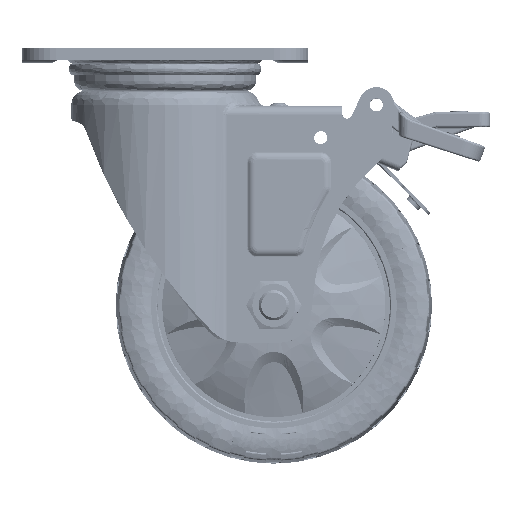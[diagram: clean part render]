
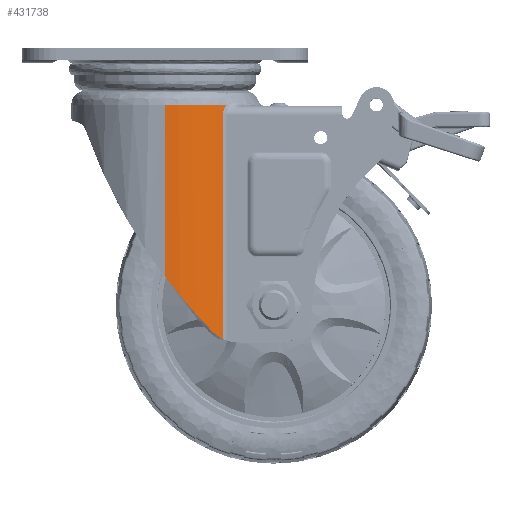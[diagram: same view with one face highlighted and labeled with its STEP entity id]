
A CAD part, top view. The second image highlights one B-rep face of the part: STEP entity #431738.
In plain terms, the highlighted cylindrical face has radius 36.999 mm (diameter 73.998 mm), a partial arc.
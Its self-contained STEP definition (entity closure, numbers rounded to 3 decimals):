
#1267 = DIRECTION ( 'NONE',  ( 0., 1., 0. ) ) ;
#7687 = CARTESIAN_POINT ( 'NONE',  ( 0., -137.226, 0. ) ) ;
#14474 = VERTEX_POINT ( 'NONE', #99763 ) ;
#29915 = ORIENTED_EDGE ( 'NONE', *, *, #49808, .T. ) ;
#33951 = CARTESIAN_POINT ( 'NONE',  ( 21.331, -113.941, 30.234 ) ) ;
#43301 = CARTESIAN_POINT ( 'NONE',  ( 23.466, -23.63, 28.606 ) ) ;
#46695 = CARTESIAN_POINT ( 'NONE',  ( 7.546, -99.646, 36.257 ) ) ;
#48983 = CARTESIAN_POINT ( 'NONE',  ( 2.96, -94.033, 36.888 ) ) ;
#49808 = EDGE_CURVE ( 'NONE', #357815, #241976, #148675, .T. ) ;
#50118 = CARTESIAN_POINT ( 'NONE',  ( 23.26, -24.071, 28.773 ) ) ;
#66270 = CARTESIAN_POINT ( 'NONE',  ( 0., -22.2, 36.999 ) ) ;
#68498 = CARTESIAN_POINT ( 'NONE',  ( 22.432, -114.563, 29.427 ) ) ;
#77909 = CARTESIAN_POINT ( 'NONE',  ( 24.418, -22.2, 27.798 ) ) ;
#82442 = CARTESIAN_POINT ( 'NONE',  ( 22.867, -25.477, 29.087 ) ) ;
#84719 = CARTESIAN_POINT ( 'NONE',  ( 23.533, -23.499, 28.551 ) ) ;
#92741 = DIRECTION ( 'NONE',  ( 0., 0., 1. ) ) ;
#94006 = CARTESIAN_POINT ( 'NONE',  ( 19.889, -112.947, 31.211 ) ) ;
#99763 = CARTESIAN_POINT ( 'NONE',  ( 0., -90.208, 36.999 ) ) ;
#103790 = DIRECTION ( 'NONE',  ( 0., 1., 0. ) ) ;
#124830 = CARTESIAN_POINT ( 'NONE',  ( 12.222, -104.991, 34.963 ) ) ;
#132998 = CARTESIAN_POINT ( 'NONE',  ( 18.542, -111.696, 32.017 ) ) ;
#134163 = EDGE_CURVE ( 'NONE', #14474, #377635, #350280, .T. ) ;
#141396 = DIRECTION ( 'NONE',  ( 0., 0., 1. ) ) ;
#146952 = CARTESIAN_POINT ( 'NONE',  ( 23.678, -23.242, 28.431 ) ) ;
#148675 = LINE ( 'NONE', #360364, #367650 ) ;
#148796 = CARTESIAN_POINT ( 'NONE',  ( 0., -22.2, 0. ) ) ;
#151558 = CARTESIAN_POINT ( 'NONE',  ( 23.175, -24.297, 28.842 ) ) ;
#156056 = CARTESIAN_POINT ( 'NONE',  ( 22.833, -25.732, 29.113 ) ) ;
#173026 = LINE ( 'NONE', #419123, #445326 ) ;
#173728 = B_SPLINE_CURVE_WITH_KNOTS ( 'NONE', 3,
 ( #220669, #397753, #261842, #156056, #186140, #82442, #400056, #190624, #365489, #216138, #393228, #356419, #218401, #222974, #151558, #50118, #427742, #43301, #84719, #331042, #257327, #146952, #358681, #287413, #77909 ),
 .UNSPECIFIED., .F., .F.,
 ( 4, 2, 1, 2, 2, 2, 1, 2, 2, 2, 1, 2, 2, 4 ),
 ( 0., 0.125, 0.187, 0.219, 0.25, 0.375, 0.437, 0.469, 0.5, 0.625, 0.687, 0.719, 0.75, 1. ),
 .UNSPECIFIED. ) ;
#174553 = CARTESIAN_POINT ( 'NONE',  ( 22.802, -114.739, 29.137 ) ) ;
#182910 = ORIENTED_EDGE ( 'NONE', *, *, #369135, .T. ) ;
#185140 = CYLINDRICAL_SURFACE ( 'NONE', #272840, 36.999 ) ;
#186140 = CARTESIAN_POINT ( 'NONE',  ( 22.848, -25.605, 29.102 ) ) ;
#189913 = EDGE_CURVE ( 'NONE', #377635, #357815, #215475, .T. ) ;
#190624 = CARTESIAN_POINT ( 'NONE',  ( 22.887, -25.352, 29.071 ) ) ;
#194999 = EDGE_CURVE ( 'NONE', #241976, #318619, #173728, .T. ) ;
#201291 = CARTESIAN_POINT ( 'NONE',  ( 24.418, -22.2, 27.798 ) ) ;
#213595 = CARTESIAN_POINT ( 'NONE',  ( 22.802, -26.326, 29.137 ) ) ;
#215475 = B_SPLINE_CURVE_WITH_KNOTS ( 'NONE', 3,
 ( #132998, #340249, #94006, #383865, #33951, #236625, #68498, #174553 ),
 .UNSPECIFIED., .F., .F.,
 ( 4, 2, 2, 4 ),
 ( 0., 0.003, 0.005, 0.006 ),
 .UNSPECIFIED. ) ;
#216138 = CARTESIAN_POINT ( 'NONE',  ( 22.969, -24.952, 29.006 ) ) ;
#218401 = CARTESIAN_POINT ( 'NONE',  ( 23.128, -24.425, 28.879 ) ) ;
#220669 = CARTESIAN_POINT ( 'NONE',  ( 22.802, -26.326, 29.137 ) ) ;
#222974 = CARTESIAN_POINT ( 'NONE',  ( 23.159, -24.338, 28.854 ) ) ;
#224094 = CARTESIAN_POINT ( 'NONE',  ( 3.719, -94.986, 36.82 ) ) ;
#224245 = ORIENTED_EDGE ( 'NONE', *, *, #134163, .T. ) ;
#236625 = CARTESIAN_POINT ( 'NONE',  ( 22.064, -114.369, 29.704 ) ) ;
#241976 = VERTEX_POINT ( 'NONE', #213595 ) ;
#257327 = CARTESIAN_POINT ( 'NONE',  ( 23.653, -23.284, 28.451 ) ) ;
#261500 = CARTESIAN_POINT ( 'NONE',  ( 22.802, -114.739, 29.137 ) ) ;
#261842 = CARTESIAN_POINT ( 'NONE',  ( 22.81, -25.987, 29.131 ) ) ;
#265346 = ORIENTED_EDGE ( 'NONE', *, *, #194999, .T. ) ;
#272840 = AXIS2_PLACEMENT_3D ( 'NONE', #7687, #424472, #141396 ) ;
#287413 = CARTESIAN_POINT ( 'NONE',  ( 24.15, -22.517, 28.032 ) ) ;
#293081 = CARTESIAN_POINT ( 'NONE',  ( 6.005, -97.808, 36.541 ) ) ;
#293607 = CIRCLE ( 'NONE', #433198, 36.999 ) ;
#295300 = CARTESIAN_POINT ( 'NONE',  ( 0.728, -91.169, 36.999 ) ) ;
#295480 = EDGE_CURVE ( 'NONE', #14474, #359618, #173026, .T. ) ;
#296122 = ORIENTED_EDGE ( 'NONE', *, *, #189913, .T. ) ;
#318619 = VERTEX_POINT ( 'NONE', #201291 ) ;
#327712 = CARTESIAN_POINT ( 'NONE',  ( 16.956, -110.076, 32.936 ) ) ;
#331042 = CARTESIAN_POINT ( 'NONE',  ( 23.604, -23.37, 28.491 ) ) ;
#340249 = CARTESIAN_POINT ( 'NONE',  ( 19.193, -112.36, 31.64 ) ) ;
#350280 = B_SPLINE_CURVE_WITH_KNOTS ( 'NONE', 3,
 ( #403378, #295300, #435699, #48983, #224094, #293081, #46695, #364389, #124830, #433416, #327712, #442471 ),
 .UNSPECIFIED., .F., .F.,
 ( 4, 2, 2, 2, 2, 4 ),
 ( 0.069, 0.073, 0.076, 0.084, 0.091, 0.098 ),
 .UNSPECIFIED. ) ;
#356419 = CARTESIAN_POINT ( 'NONE',  ( 23.084, -24.556, 28.915 ) ) ;
#357815 = VERTEX_POINT ( 'NONE', #261500 ) ;
#358681 = CARTESIAN_POINT ( 'NONE',  ( 23.912, -22.85, 28.235 ) ) ;
#359618 = VERTEX_POINT ( 'NONE', #66270 ) ;
#359953 = FACE_OUTER_BOUND ( 'NONE', #370680, .T. ) ;
#360364 = CARTESIAN_POINT ( 'NONE',  ( 22.802, -137.226, 29.137 ) ) ;
#364389 = CARTESIAN_POINT ( 'NONE',  ( 10.655, -103.237, 35.468 ) ) ;
#365489 = CARTESIAN_POINT ( 'NONE',  ( 22.928, -25.129, 29.038 ) ) ;
#367650 = VECTOR ( 'NONE', #1267, 1000. ) ;
#369135 = EDGE_CURVE ( 'NONE', #318619, #359618, #293607, .T. ) ;
#370680 = EDGE_LOOP ( 'NONE', ( #384248, #224245, #296122, #29915, #265346, #182910 ) ) ;
#377635 = VERTEX_POINT ( 'NONE', #413068 ) ;
#383865 = CARTESIAN_POINT ( 'NONE',  ( 20.966, -113.707, 30.488 ) ) ;
#384248 = ORIENTED_EDGE ( 'NONE', *, *, #295480, .F. ) ;
#393228 = CARTESIAN_POINT ( 'NONE',  ( 23.043, -24.688, 28.947 ) ) ;
#397753 = CARTESIAN_POINT ( 'NONE',  ( 22.802, -26.156, 29.138 ) ) ;
#400056 = CARTESIAN_POINT ( 'NONE',  ( 22.88, -25.392, 29.076 ) ) ;
#403378 = CARTESIAN_POINT ( 'NONE',  ( 0., -90.208, 36.999 ) ) ;
#403495 = DIRECTION ( 'NONE',  ( 0., -1., 0. ) ) ;
#413068 = CARTESIAN_POINT ( 'NONE',  ( 18.542, -111.696, 32.017 ) ) ;
#419123 = CARTESIAN_POINT ( 'NONE',  ( 0., -137.226, 36.999 ) ) ;
#424472 = DIRECTION ( 'NONE',  ( 0., 1., 0. ) ) ;
#427742 = CARTESIAN_POINT ( 'NONE',  ( 23.338, -23.893, 28.711 ) ) ;
#431738 = ADVANCED_FACE ( 'NONE', ( #359953 ), #185140, .T. ) ;
#433198 = AXIS2_PLACEMENT_3D ( 'NONE', #148796, #403495, #92741 ) ;
#433416 = CARTESIAN_POINT ( 'NONE',  ( 15.372, -108.411, 33.697 ) ) ;
#435699 = CARTESIAN_POINT ( 'NONE',  ( 1.465, -92.126, 36.978 ) ) ;
#442471 = CARTESIAN_POINT ( 'NONE',  ( 18.542, -111.696, 32.017 ) ) ;
#445326 = VECTOR ( 'NONE', #103790, 1000. ) ;
